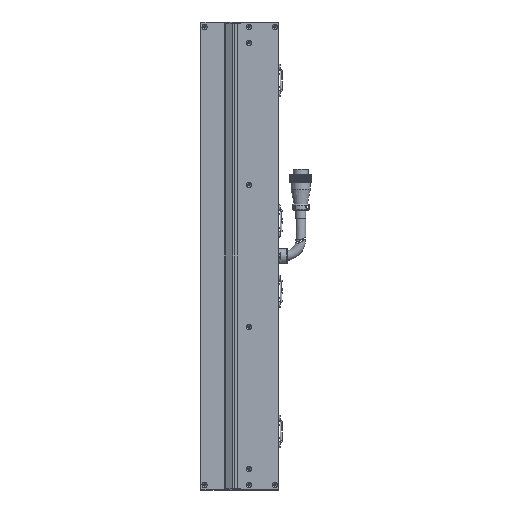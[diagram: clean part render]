
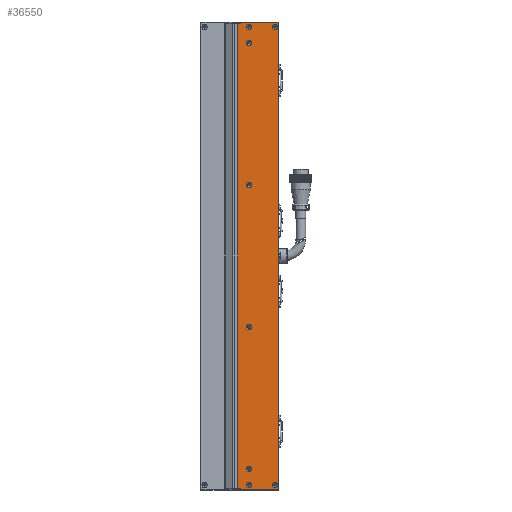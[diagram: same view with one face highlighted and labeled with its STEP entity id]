
A CAD part, left-side view. The second image highlights one B-rep face of the part: STEP entity #36550.
In plain terms, the highlighted planar face has unit normal (-1, 0, 0).
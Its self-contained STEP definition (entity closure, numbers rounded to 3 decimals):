
#60 = LINE ( 'NONE', #43568, #13728 ) ;
#229 = VERTEX_POINT ( 'NONE', #63184 ) ;
#1838 = LINE ( 'NONE', #87346, #83664 ) ;
#3187 = EDGE_CURVE ( 'NONE', #59286, #91534, #32080, .T. ) ;
#3261 = AXIS2_PLACEMENT_3D ( 'NONE', #47589, #32353, #80081 ) ;
#4747 = DIRECTION ( 'NONE',  ( 0., 0., -1. ) ) ;
#4846 = VECTOR ( 'NONE', #80706, 1000. ) ;
#6327 = CIRCLE ( 'NONE', #57859, 3.15 ) ;
#6496 = CIRCLE ( 'NONE', #71208, 3.15 ) ;
#7106 = EDGE_LOOP ( 'NONE', ( #33112 ) ) ;
#8365 = CARTESIAN_POINT ( 'NONE',  ( -24.998, -36.5, -274. ) ) ;
#8441 = DIRECTION ( 'NONE',  ( 0., 0., -1. ) ) ;
#9561 = EDGE_CURVE ( 'NONE', #91534, #98877, #58921, .T. ) ;
#10981 = CARTESIAN_POINT ( 'NONE',  ( -24.998, -36.5, 255. ) ) ;
#10987 = DIRECTION ( 'NONE',  ( 0., 0., 1. ) ) ;
#11080 = CARTESIAN_POINT ( 'NONE',  ( -24.998, -26.5, -271. ) ) ;
#11658 = DIRECTION ( 'NONE',  ( 0., 0., 1. ) ) ;
#12020 = DIRECTION ( 'NONE',  ( -1., 0., 0. ) ) ;
#13403 = PLANE ( 'NONE',  #25670 ) ;
#13728 = VECTOR ( 'NONE', #91293, 1000. ) ;
#16906 = ORIENTED_EDGE ( 'NONE', *, *, #47094, .T. ) ;
#17067 = CIRCLE ( 'NONE', #101850, 3.15 ) ;
#17094 = VECTOR ( 'NONE', #43985, 1000. ) ;
#17327 = EDGE_CURVE ( 'NONE', #98877, #17682, #72038, .T. ) ;
#17338 = CIRCLE ( 'NONE', #33038, 3.15 ) ;
#17682 = VERTEX_POINT ( 'NONE', #59597 ) ;
#18418 = FACE_BOUND ( 'NONE', #96135, .T. ) ;
#18742 = ORIENTED_EDGE ( 'NONE', *, *, #25041, .F. ) ;
#19318 = ORIENTED_EDGE ( 'NONE', *, *, #78490, .F. ) ;
#20368 = CARTESIAN_POINT ( 'NONE',  ( -24.998, -72.5, 278. ) ) ;
#21739 = ORIENTED_EDGE ( 'NONE', *, *, #51367, .F. ) ;
#21834 = CARTESIAN_POINT ( 'NONE',  ( -24.998, -36.5, -255. ) ) ;
#22477 = CARTESIAN_POINT ( 'NONE',  ( -24.998, -67.5, -274. ) ) ;
#25041 = EDGE_CURVE ( 'NONE', #58790, #58790, #45220, .T. ) ;
#25670 = AXIS2_PLACEMENT_3D ( 'NONE', #52191, #29001, #4747 ) ;
#25772 = CARTESIAN_POINT ( 'NONE',  ( -24.998, -36.5, -81.85 ) ) ;
#25885 = FACE_BOUND ( 'NONE', #7106, .T. ) ;
#26731 = EDGE_LOOP ( 'NONE', ( #66599 ) ) ;
#27561 = DIRECTION ( 'NONE',  ( 0., 0., 1. ) ) ;
#28497 = DIRECTION ( 'NONE',  ( 0., 0., 1. ) ) ;
#28869 = EDGE_CURVE ( 'NONE', #85979, #85979, #6327, .T. ) ;
#29001 = DIRECTION ( 'NONE',  ( 1., 0., 0. ) ) ;
#29160 = DIRECTION ( 'NONE',  ( 0., 0., 1. ) ) ;
#29176 = EDGE_CURVE ( 'NONE', #29581, #59286, #60, .T. ) ;
#29443 = EDGE_LOOP ( 'NONE', ( #19318 ) ) ;
#29581 = VERTEX_POINT ( 'NONE', #45738 ) ;
#30019 = CARTESIAN_POINT ( 'NONE',  ( -24.998, -67.5, -270.85 ) ) ;
#32080 = LINE ( 'NONE', #11080, #4846 ) ;
#32353 = DIRECTION ( 'NONE',  ( -1., 0., 0. ) ) ;
#33038 = AXIS2_PLACEMENT_3D ( 'NONE', #57750, #50174, #10987 ) ;
#33112 = ORIENTED_EDGE ( 'NONE', *, *, #92085, .F. ) ;
#33859 = VERTEX_POINT ( 'NONE', #47649 ) ;
#36550 = ADVANCED_FACE ( 'NONE', ( #102548, #18418, #72957, #25885, #67983, #100112, #79095, #90264, #58072 ), #13403, .F. ) ;
#37424 = AXIS2_PLACEMENT_3D ( 'NONE', #10981, #12020, #11658 ) ;
#37829 = VECTOR ( 'NONE', #8441, 1000. ) ;
#39072 = DIRECTION ( 'NONE',  ( -1., 0., 0. ) ) ;
#41292 = EDGE_CURVE ( 'NONE', #29581, #98724, #1838, .T. ) ;
#43568 = CARTESIAN_POINT ( 'NONE',  ( -24.998, -72.5, -278. ) ) ;
#43926 = CARTESIAN_POINT ( 'NONE',  ( -24.998, -36.5, 277.15 ) ) ;
#43985 = DIRECTION ( 'NONE',  ( 0., -1., 0. ) ) ;
#45220 = CIRCLE ( 'NONE', #3261, 3.15 ) ;
#45694 = AXIS2_PLACEMENT_3D ( 'NONE', #21834, #76219, #28497 ) ;
#45738 = CARTESIAN_POINT ( 'NONE',  ( -24.998, -23.25, -278. ) ) ;
#45998 = EDGE_CURVE ( 'NONE', #88956, #79169, #61338, .T. ) ;
#46114 = CARTESIAN_POINT ( 'NONE',  ( -24.998, -36.5, 85. ) ) ;
#47094 = EDGE_CURVE ( 'NONE', #17682, #88956, #101510, .T. ) ;
#47589 = CARTESIAN_POINT ( 'NONE',  ( -24.998, -67.5, 274. ) ) ;
#47649 = CARTESIAN_POINT ( 'NONE',  ( -24.998, -36.5, 88.15 ) ) ;
#47873 = EDGE_LOOP ( 'NONE', ( #50837 ) ) ;
#50174 = DIRECTION ( 'NONE',  ( -1., 0., 0. ) ) ;
#50837 = ORIENTED_EDGE ( 'NONE', *, *, #96130, .F. ) ;
#50990 = ORIENTED_EDGE ( 'NONE', *, *, #9561, .T. ) ;
#51064 = CIRCLE ( 'NONE', #100140, 3.15 ) ;
#51367 = EDGE_CURVE ( 'NONE', #95813, #95813, #17067, .T. ) ;
#51791 = CARTESIAN_POINT ( 'NONE',  ( -24.998, -72., 278. ) ) ;
#52191 = CARTESIAN_POINT ( 'NONE',  ( -24.998, -72.5, 278. ) ) ;
#53981 = DIRECTION ( 'NONE',  ( 0., 0., 1. ) ) ;
#55512 = DIRECTION ( 'NONE',  ( 0., 0., 1. ) ) ;
#56527 = DIRECTION ( 'NONE',  ( -1., 0., 0. ) ) ;
#57591 = CARTESIAN_POINT ( 'NONE',  ( -24.998, -72.5, -279.5 ) ) ;
#57750 = CARTESIAN_POINT ( 'NONE',  ( -24.998, -36.5, -85. ) ) ;
#57859 = AXIS2_PLACEMENT_3D ( 'NONE', #94753, #39072, #53981 ) ;
#58072 = FACE_OUTER_BOUND ( 'NONE', #71330, .T. ) ;
#58475 = CARTESIAN_POINT ( 'NONE',  ( -24.998, -26.5, -278. ) ) ;
#58790 = VERTEX_POINT ( 'NONE', #67392 ) ;
#58921 = LINE ( 'NONE', #57591, #97304 ) ;
#59286 = VERTEX_POINT ( 'NONE', #58475 ) ;
#59597 = CARTESIAN_POINT ( 'NONE',  ( -24.998, -72., 279.5 ) ) ;
#60787 = CARTESIAN_POINT ( 'NONE',  ( -24.998, -26.5, -279.5 ) ) ;
#61268 = DIRECTION ( 'NONE',  ( -1., 0., 0. ) ) ;
#61338 = LINE ( 'NONE', #79778, #37829 ) ;
#61615 = DIRECTION ( 'NONE',  ( -1., 0., 0. ) ) ;
#61934 = VECTOR ( 'NONE', #94341, 1000. ) ;
#62070 = CARTESIAN_POINT ( 'NONE',  ( -24.998, -26.5, 279.5 ) ) ;
#62216 = VERTEX_POINT ( 'NONE', #25772 ) ;
#63184 = CARTESIAN_POINT ( 'NONE',  ( -24.998, -36.5, -251.85 ) ) ;
#63401 = ORIENTED_EDGE ( 'NONE', *, *, #41292, .F. ) ;
#64505 = ORIENTED_EDGE ( 'NONE', *, *, #45998, .T. ) ;
#65658 = EDGE_CURVE ( 'NONE', #98724, #79169, #75315, .T. ) ;
#66599 = ORIENTED_EDGE ( 'NONE', *, *, #71564, .F. ) ;
#67392 = CARTESIAN_POINT ( 'NONE',  ( -24.998, -67.5, 277.15 ) ) ;
#67983 = FACE_BOUND ( 'NONE', #26731, .T. ) ;
#70205 = CIRCLE ( 'NONE', #45694, 3.15 ) ;
#71008 = ORIENTED_EDGE ( 'NONE', *, *, #29176, .T. ) ;
#71208 = AXIS2_PLACEMENT_3D ( 'NONE', #46114, #61268, #92118 ) ;
#71330 = EDGE_LOOP ( 'NONE', ( #71008, #74367, #50990, #81995, #16906, #64505, #90650, #63401 ) ) ;
#71564 = EDGE_CURVE ( 'NONE', #33859, #33859, #6496, .T. ) ;
#72038 = LINE ( 'NONE', #51791, #83218 ) ;
#72957 = FACE_BOUND ( 'NONE', #29443, .T. ) ;
#74367 = ORIENTED_EDGE ( 'NONE', *, *, #3187, .T. ) ;
#74594 = VERTEX_POINT ( 'NONE', #96379 ) ;
#75315 = LINE ( 'NONE', #20368, #17094 ) ;
#76219 = DIRECTION ( 'NONE',  ( -1., 0., 0. ) ) ;
#78490 = EDGE_CURVE ( 'NONE', #229, #229, #70205, .T. ) ;
#79095 = FACE_BOUND ( 'NONE', #94410, .T. ) ;
#79169 = VERTEX_POINT ( 'NONE', #81871 ) ;
#79778 = CARTESIAN_POINT ( 'NONE',  ( -24.998, -26.5, 271. ) ) ;
#80081 = DIRECTION ( 'NONE',  ( 0., 0., 1. ) ) ;
#80592 = ORIENTED_EDGE ( 'NONE', *, *, #87142, .F. ) ;
#80706 = DIRECTION ( 'NONE',  ( 0., 0., -1. ) ) ;
#80843 = VERTEX_POINT ( 'NONE', #82203 ) ;
#81871 = CARTESIAN_POINT ( 'NONE',  ( -24.998, -26.5, 278. ) ) ;
#81995 = ORIENTED_EDGE ( 'NONE', *, *, #17327, .T. ) ;
#82203 = CARTESIAN_POINT ( 'NONE',  ( -24.998, -36.5, 258.15 ) ) ;
#82749 = EDGE_LOOP ( 'NONE', ( #80592 ) ) ;
#83218 = VECTOR ( 'NONE', #27561, 1000. ) ;
#83664 = VECTOR ( 'NONE', #97009, 1000. ) ;
#85979 = VERTEX_POINT ( 'NONE', #43926 ) ;
#87142 = EDGE_CURVE ( 'NONE', #80843, #80843, #93129, .T. ) ;
#87149 = CARTESIAN_POINT ( 'NONE',  ( -24.998, -72., -279.5 ) ) ;
#87346 = CARTESIAN_POINT ( 'NONE',  ( -24.998, -23.25, -278. ) ) ;
#88956 = VERTEX_POINT ( 'NONE', #62070 ) ;
#90264 = FACE_BOUND ( 'NONE', #47873, .T. ) ;
#90650 = ORIENTED_EDGE ( 'NONE', *, *, #65658, .F. ) ;
#90725 = CARTESIAN_POINT ( 'NONE',  ( -24.998, -23.25, 278. ) ) ;
#91293 = DIRECTION ( 'NONE',  ( 0., -1., 0. ) ) ;
#91534 = VERTEX_POINT ( 'NONE', #60787 ) ;
#92085 = EDGE_CURVE ( 'NONE', #62216, #62216, #17338, .T. ) ;
#92118 = DIRECTION ( 'NONE',  ( 0., 0., 1. ) ) ;
#93129 = CIRCLE ( 'NONE', #37424, 3.15 ) ;
#94341 = DIRECTION ( 'NONE',  ( 0., 1., 0. ) ) ;
#94410 = EDGE_LOOP ( 'NONE', ( #21739 ) ) ;
#94753 = CARTESIAN_POINT ( 'NONE',  ( -24.998, -36.5, 274. ) ) ;
#94852 = ORIENTED_EDGE ( 'NONE', *, *, #28869, .F. ) ;
#95713 = CARTESIAN_POINT ( 'NONE',  ( -24.998, -72.5, 279.5 ) ) ;
#95813 = VERTEX_POINT ( 'NONE', #30019 ) ;
#96130 = EDGE_CURVE ( 'NONE', #74594, #74594, #51064, .T. ) ;
#96135 = EDGE_LOOP ( 'NONE', ( #94852 ) ) ;
#96379 = CARTESIAN_POINT ( 'NONE',  ( -24.998, -36.5, -270.85 ) ) ;
#97009 = DIRECTION ( 'NONE',  ( 0., 0., 1. ) ) ;
#97303 = EDGE_LOOP ( 'NONE', ( #18742 ) ) ;
#97304 = VECTOR ( 'NONE', #97355, 1000. ) ;
#97355 = DIRECTION ( 'NONE',  ( 0., -1., 0. ) ) ;
#98724 = VERTEX_POINT ( 'NONE', #90725 ) ;
#98877 = VERTEX_POINT ( 'NONE', #87149 ) ;
#100112 = FACE_BOUND ( 'NONE', #82749, .T. ) ;
#100140 = AXIS2_PLACEMENT_3D ( 'NONE', #8365, #56527, #55512 ) ;
#101510 = LINE ( 'NONE', #95713, #61934 ) ;
#101850 = AXIS2_PLACEMENT_3D ( 'NONE', #22477, #61615, #29160 ) ;
#102548 = FACE_BOUND ( 'NONE', #97303, .T. ) ;
